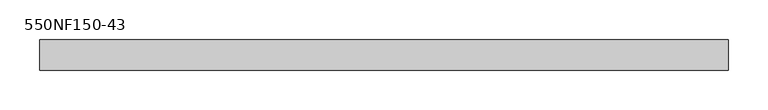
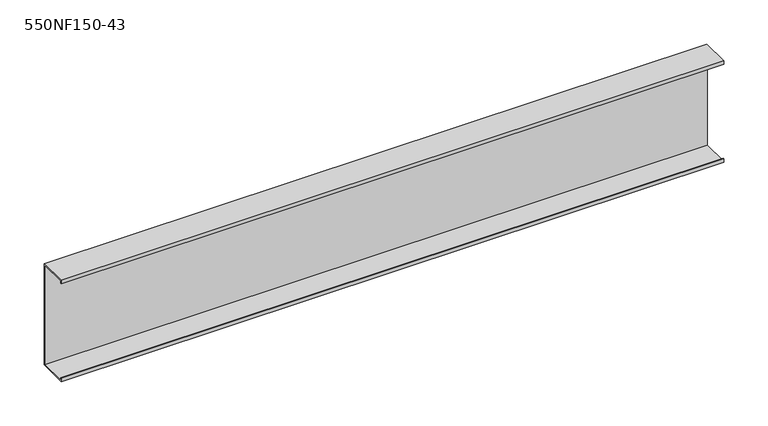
"""IFC4 building model written with IfcOpenShell, lengths in millimetres: beam geometry, BIMSF-SSMA-S : 550NF150-43."""

from ifc_helpers import new_model, si_unit, frame, origin, place, context, project, spatial, polyline, outline, extrude, source, transform, mapped, element, save


def beam_550nf150_43_d5e1d725(model_context):
    return source(origin(), model_context, "Body", "SweptSolid", [
        extrude(outline(polyline([(19.05, 69.85), (19.05, -69.85), (-19.05, -69.85), (-19.05, -65.0748), (-17.9003158, -65.0748), (-17.9003158, -68.7003158), (17.9003158, -68.7003158), (17.9003158, 68.7003158), (-17.9003158, 68.7003158), (-17.9003158, 65.0748), (-19.05, 65.0748), (-19.05, 69.85), (19.05, 69.85)])), frame((-432.546725, 0.0, 0.0), z_axis=(1.0, 0.0, 0.0), x_axis=(0.0, 1.0, 0.0)), (0.0, 0.0, 1.0), 865.09345),
    ])


if __name__ == "__main__":
    model = new_model("IFC4")
    model_context = context("Model", 3, world=origin())
    ifc_project = project(units=[si_unit("LENGTHUNIT", "METRE", prefix="MILLI")], contexts=[model_context])
    site = spatial("IfcSite", under=ifc_project)
    building = spatial("IfcBuilding", under=site)
    placement = place(None, origin())
    beam_550nf150_43_shape = beam_550nf150_43_d5e1d725(model_context)
    element("IfcBeam", 1, ObjectType="BIMSF-SSMA-S : 550NF150-43", at=placement, inside=building, context=model_context, shape_type="MappedRepresentation", body=[
        mapped(beam_550nf150_43_shape, transform((0.0, 0.0, 0.0), x_axis=(1.0, 0.0, 0.0), y_axis=(0.0, 1.0, 0.0), z_axis=(0.0, 0.0, 1.0))),
    ])
    save(model, "model.ifc")
